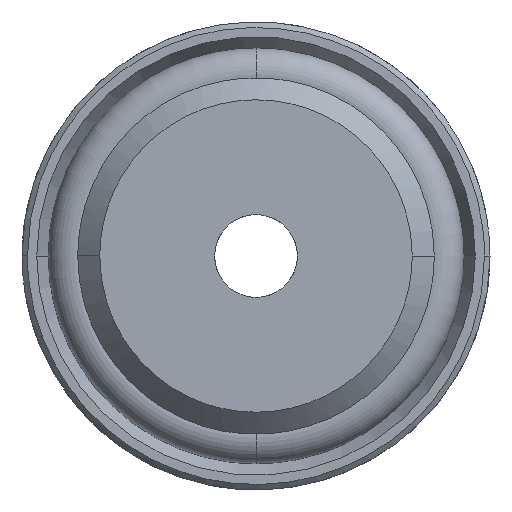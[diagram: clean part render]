
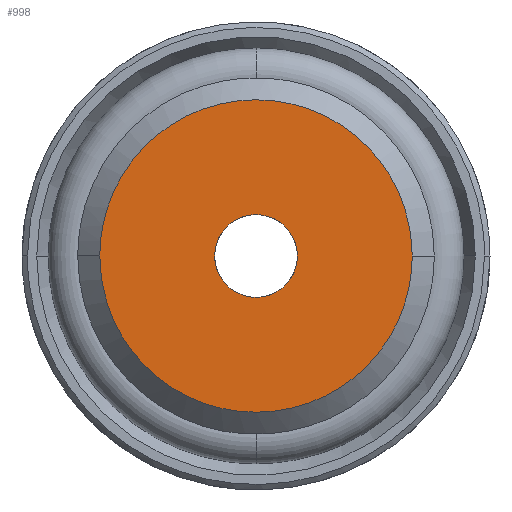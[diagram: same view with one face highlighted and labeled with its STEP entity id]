
A CAD part, front view. The second image highlights one B-rep face of the part: STEP entity #998.
In plain terms, the highlighted planar face has unit normal (0, -1, 0).
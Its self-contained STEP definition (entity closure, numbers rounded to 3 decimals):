
#10 = CARTESIAN_POINT ( 'NONE',  ( 1.31, 0., -0.757 ) ) ;
#18 = EDGE_CURVE ( 'NONE', #294, #315, #1007, .T. ) ;
#107 = CARTESIAN_POINT ( 'NONE',  ( 1.5, 0., -0.199 ) ) ;
#124 = CARTESIAN_POINT ( 'NONE',  ( -1.5, 0., -0.199 ) ) ;
#139 = EDGE_LOOP ( 'NONE', ( #2342, #1724 ) ) ;
#151 = CARTESIAN_POINT ( 'NONE',  ( 5.675, 0., -0.745 ) ) ;
#166 = CARTESIAN_POINT ( 'NONE',  ( 5.528, 0., -1.484 ) ) ;
#203 = CARTESIAN_POINT ( 'NONE',  ( 3.486, 0., 4.539 ) ) ;
#253 = CARTESIAN_POINT ( 'NONE',  ( -5.675, 0., 0. ) ) ;
#294 = VERTEX_POINT ( 'NONE', #1576 ) ;
#315 = VERTEX_POINT ( 'NONE', #2827 ) ;
#347 = CARTESIAN_POINT ( 'NONE',  ( -0.92, 0., -1.201 ) ) ;
#377 = CARTESIAN_POINT ( 'NONE',  ( -4.958, 0., -2.86 ) ) ;
#392 = CARTESIAN_POINT ( 'NONE',  ( 5.675, 0., 0. ) ) ;
#406 = CARTESIAN_POINT ( 'NONE',  ( 1.484, 0., -5.528 ) ) ;
#410 = CARTESIAN_POINT ( 'NONE',  ( 1.5, 0., 0. ) ) ;
#469 = VERTEX_POINT ( 'NONE', #410 ) ;
#498 = CARTESIAN_POINT ( 'NONE',  ( -1.5, 0., 0.199 ) ) ;
#504 = CARTESIAN_POINT ( 'NONE',  ( 5.675, 0., 0. ) ) ;
#514 = CARTESIAN_POINT ( 'NONE',  ( 1.462, 0., 0.391 ) ) ;
#629 = CARTESIAN_POINT ( 'NONE',  ( 4.539, 0., -3.486 ) ) ;
#692 = CARTESIAN_POINT ( 'NONE',  ( 1.5, 0., 0.199 ) ) ;
#697 = CARTESIAN_POINT ( 'NONE',  ( -4.958, 0., 2.86 ) ) ;
#723 = CARTESIAN_POINT ( 'NONE',  ( -0.391, 0., 1.462 ) ) ;
#737 = CARTESIAN_POINT ( 'NONE',  ( -1.462, 0., 0.391 ) ) ;
#826 = CARTESIAN_POINT ( 'NONE',  ( -0.391, 0., -1.462 ) ) ;
#937 = CARTESIAN_POINT ( 'NONE',  ( -2.86, 0., 4.958 ) ) ;
#947 = CARTESIAN_POINT ( 'NONE',  ( -0.199, 0., 1.5 ) ) ;
#948 = CARTESIAN_POINT ( 'NONE',  ( -3.588, 0., 0. ) ) ;
#982 = CARTESIAN_POINT ( 'NONE',  ( 0.757, 0., 1.31 ) ) ;
#988 = CARTESIAN_POINT ( 'NONE',  ( 0.391, 0., -1.462 ) ) ;
#997 = FACE_BOUND ( 'NONE', #1486, .T. ) ;
#998 = ADVANCED_FACE ( 'NONE', ( #997, #1952 ), #1982, .T. ) ;
#1007 = B_SPLINE_CURVE_WITH_KNOTS ( 'NONE', 3,
 ( #504, #2669, #1427, #2171, #2421, #203, #3175, #2729, #1180, #3160, #1445, #937, #1476, #1493, #697, #2682, #2469, #253 ),
 .UNSPECIFIED., .F., .F.,
 ( 4, 2, 2, 2, 2, 2, 2, 2, 4 ),
 ( 0.5, 0.563, 0.625, 0.688, 0.75, 0.813, 0.875, 0.938, 1. ),
 .UNSPECIFIED. ) ;
#1112 = CARTESIAN_POINT ( 'NONE',  ( -1.484, 0., -5.528 ) ) ;
#1143 = CARTESIAN_POINT ( 'NONE',  ( -0.745, 0., -5.675 ) ) ;
#1180 = CARTESIAN_POINT ( 'NONE',  ( 0.745, 0., 5.675 ) ) ;
#1262 = CARTESIAN_POINT ( 'NONE',  ( 1.5, 0., 0. ) ) ;
#1363 = CARTESIAN_POINT ( 'NONE',  ( -4.539, 0., -3.486 ) ) ;
#1376 = CARTESIAN_POINT ( 'NONE',  ( -5.675, 0., 0. ) ) ;
#1391 = CARTESIAN_POINT ( 'NONE',  ( 4.958, 0., -2.86 ) ) ;
#1427 = CARTESIAN_POINT ( 'NONE',  ( 5.528, 0., 1.484 ) ) ;
#1445 = CARTESIAN_POINT ( 'NONE',  ( -1.484, 0., 5.528 ) ) ;
#1476 = CARTESIAN_POINT ( 'NONE',  ( -3.486, 0., 4.539 ) ) ;
#1478 = CARTESIAN_POINT ( 'NONE',  ( -1.5, 0., 0. ) ) ;
#1486 = EDGE_LOOP ( 'NONE', ( #1681, #2818 ) ) ;
#1493 = CARTESIAN_POINT ( 'NONE',  ( -4.539, 0., 3.486 ) ) ;
#1495 = CARTESIAN_POINT ( 'NONE',  ( 1.201, 0., -0.92 ) ) ;
#1555 = VERTEX_POINT ( 'NONE', #3040 ) ;
#1571 = CARTESIAN_POINT ( 'NONE',  ( 1.5, 0., 0. ) ) ;
#1576 = CARTESIAN_POINT ( 'NONE',  ( 5.675, 0., 0. ) ) ;
#1595 = B_SPLINE_CURVE_WITH_KNOTS ( 'NONE', 3,
 ( #1376, #1631, #2616, #377, #1363, #1855, #2629, #1112, #1143, #2102, #406, #3093, #2370, #629, #1391, #166, #151, #392 ),
 .UNSPECIFIED., .F., .F.,
 ( 4, 2, 2, 2, 2, 2, 2, 2, 4 ),
 ( 0., 0.062, 0.125, 0.187, 0.25, 0.312, 0.375, 0.438, 0.5 ),
 .UNSPECIFIED. ) ;
#1631 = CARTESIAN_POINT ( 'NONE',  ( -5.675, 0., -0.745 ) ) ;
#1681 = ORIENTED_EDGE ( 'NONE', *, *, #2595, .T. ) ;
#1692 = CARTESIAN_POINT ( 'NONE',  ( -0.92, 0., 1.201 ) ) ;
#1709 = CARTESIAN_POINT ( 'NONE',  ( 1.201, 0., 0.92 ) ) ;
#1724 = ORIENTED_EDGE ( 'NONE', *, *, #18, .T. ) ;
#1725 = CARTESIAN_POINT ( 'NONE',  ( -0.757, 0., 1.31 ) ) ;
#1742 = CARTESIAN_POINT ( 'NONE',  ( 0.391, 0., 1.462 ) ) ;
#1793 = CARTESIAN_POINT ( 'NONE',  ( -1.31, 0., -0.758 ) ) ;
#1826 = B_SPLINE_CURVE_WITH_KNOTS ( 'NONE', 3,
 ( #2447, #498, #737, #1981, #3171, #1692, #1725, #723, #947, #2978, #1742, #982, #2724, #1709, #2500, #514, #692, #1262 ),
 .UNSPECIFIED., .F., .F.,
 ( 4, 2, 2, 2, 2, 2, 2, 2, 4 ),
 ( 0., 0.063, 0.125, 0.188, 0.25, 0.313, 0.375, 0.438, 0.5 ),
 .UNSPECIFIED. ) ;
#1855 = CARTESIAN_POINT ( 'NONE',  ( -3.486, 0., -4.539 ) ) ;
#1952 = FACE_OUTER_BOUND ( 'NONE', #139, .T. ) ;
#1981 = CARTESIAN_POINT ( 'NONE',  ( -1.31, 0., 0.757 ) ) ;
#1982 = PLANE ( 'NONE',  #2368 ) ;
#1989 = CARTESIAN_POINT ( 'NONE',  ( 0.199, 0., -1.5 ) ) ;
#2073 = CARTESIAN_POINT ( 'NONE',  ( -0.199, 0., -1.5 ) ) ;
#2087 = CARTESIAN_POINT ( 'NONE',  ( 1.462, 0., -0.391 ) ) ;
#2102 = CARTESIAN_POINT ( 'NONE',  ( 0.745, 0., -5.675 ) ) ;
#2171 = CARTESIAN_POINT ( 'NONE',  ( 4.958, 0., 2.86 ) ) ;
#2229 = CARTESIAN_POINT ( 'NONE',  ( -1.462, 0., -0.39 ) ) ;
#2238 = DIRECTION ( 'NONE',  ( 0., 0., -1. ) ) ;
#2340 = CARTESIAN_POINT ( 'NONE',  ( -1.201, 0., -0.92 ) ) ;
#2342 = ORIENTED_EDGE ( 'NONE', *, *, #2497, .T. ) ;
#2347 = EDGE_CURVE ( 'NONE', #469, #1555, #2492, .T. ) ;
#2368 = AXIS2_PLACEMENT_3D ( 'NONE', #948, #2448, #2238 ) ;
#2370 = CARTESIAN_POINT ( 'NONE',  ( 3.486, 0., -4.539 ) ) ;
#2421 = CARTESIAN_POINT ( 'NONE',  ( 4.539, 0., 3.486 ) ) ;
#2447 = CARTESIAN_POINT ( 'NONE',  ( -1.5, 0., 0. ) ) ;
#2448 = DIRECTION ( 'NONE',  ( 0., -1., 0. ) ) ;
#2469 = CARTESIAN_POINT ( 'NONE',  ( -5.675, 0., 0.746 ) ) ;
#2492 = B_SPLINE_CURVE_WITH_KNOTS ( 'NONE', 3,
 ( #1571, #107, #2087, #10, #1495, #2569, #3049, #988, #1989, #2073, #826, #3065, #347, #2340, #1793, #2229, #124, #1478 ),
 .UNSPECIFIED., .F., .F.,
 ( 4, 2, 2, 2, 2, 2, 2, 2, 4 ),
 ( 0.5, 0.563, 0.625, 0.688, 0.75, 0.813, 0.875, 0.938, 1. ),
 .UNSPECIFIED. ) ;
#2497 = EDGE_CURVE ( 'NONE', #315, #294, #1595, .T. ) ;
#2500 = CARTESIAN_POINT ( 'NONE',  ( 1.31, 0., 0.757 ) ) ;
#2569 = CARTESIAN_POINT ( 'NONE',  ( 0.92, 0., -1.201 ) ) ;
#2595 = EDGE_CURVE ( 'NONE', #1555, #469, #1826, .T. ) ;
#2616 = CARTESIAN_POINT ( 'NONE',  ( -5.528, 0., -1.484 ) ) ;
#2629 = CARTESIAN_POINT ( 'NONE',  ( -2.86, 0., -4.958 ) ) ;
#2669 = CARTESIAN_POINT ( 'NONE',  ( 5.675, 0., 0.745 ) ) ;
#2682 = CARTESIAN_POINT ( 'NONE',  ( -5.528, 0., 1.484 ) ) ;
#2724 = CARTESIAN_POINT ( 'NONE',  ( 0.92, 0., 1.201 ) ) ;
#2729 = CARTESIAN_POINT ( 'NONE',  ( 1.484, 0., 5.528 ) ) ;
#2818 = ORIENTED_EDGE ( 'NONE', *, *, #2347, .T. ) ;
#2827 = CARTESIAN_POINT ( 'NONE',  ( -5.675, 0., 0. ) ) ;
#2978 = CARTESIAN_POINT ( 'NONE',  ( 0.199, 0., 1.5 ) ) ;
#3040 = CARTESIAN_POINT ( 'NONE',  ( -1.5, 0., 0. ) ) ;
#3049 = CARTESIAN_POINT ( 'NONE',  ( 0.757, 0., -1.31 ) ) ;
#3065 = CARTESIAN_POINT ( 'NONE',  ( -0.757, 0., -1.31 ) ) ;
#3093 = CARTESIAN_POINT ( 'NONE',  ( 2.86, 0., -4.958 ) ) ;
#3160 = CARTESIAN_POINT ( 'NONE',  ( -0.745, 0., 5.675 ) ) ;
#3171 = CARTESIAN_POINT ( 'NONE',  ( -1.201, 0., 0.92 ) ) ;
#3175 = CARTESIAN_POINT ( 'NONE',  ( 2.86, 0., 4.958 ) ) ;
